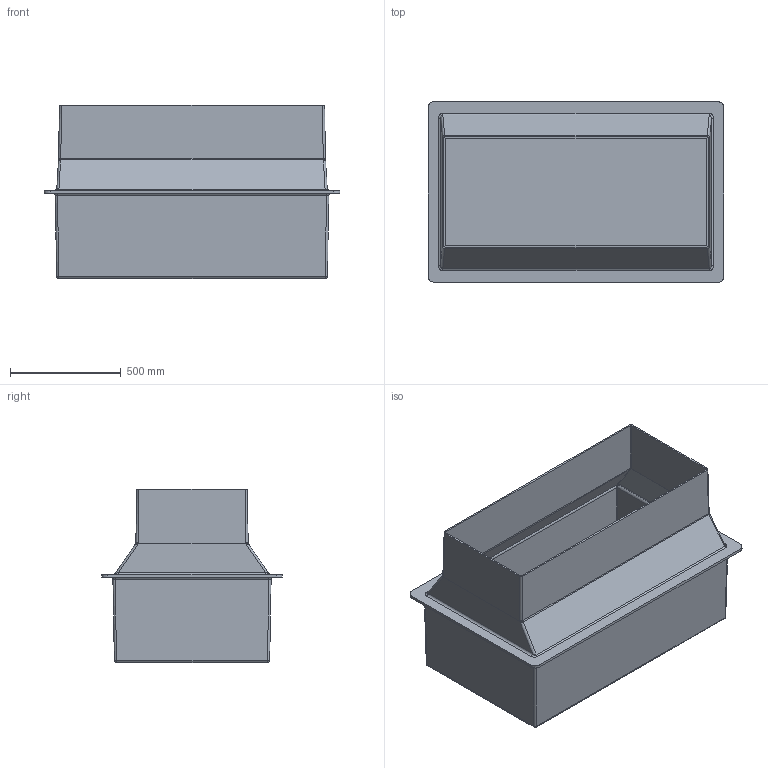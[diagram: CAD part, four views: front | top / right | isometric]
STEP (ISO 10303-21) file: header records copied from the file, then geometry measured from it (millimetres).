
FILE_DESCRIPTION (( 'STEP AP214' ), '1' );
FILE_NAME ('KP_DC1220C.step', '2012-10-04T09:36:12', ( 'robinj' ), ( 'Microsoft' ), 'SwSTEP 2.0', 'SolidWorks 2012', '' );
FILE_SCHEMA (( 'AUTOMOTIVE_DESIGN' ));
Length unit declared in the file: millimetre
Products named in the file (1): KP_DC1220C
Bounding box: 1334.18 x 814.18 x 780 mm (x, y, z)
Volume: 28863352.2 mm3; surface area: 8324750.7 mm2
Topology: 2 solids, 2 shells, 176 faces, 408 edges, 240 vertices
Faces by surface type: cylinder 64, bspline 60, plane 44, sphere 8
Entity records: 9239 total; most frequent: CARTESIAN_POINT 3805, ORIENTED_EDGE 816, DIRECTION 614, EDGE_CURVE 408, VERTEX_POINT 240, AXIS2_PLACEMENT_3D 221, EDGE_LOOP 182, UNCERTAINTY_MEASURE_WITH_UNIT 180
